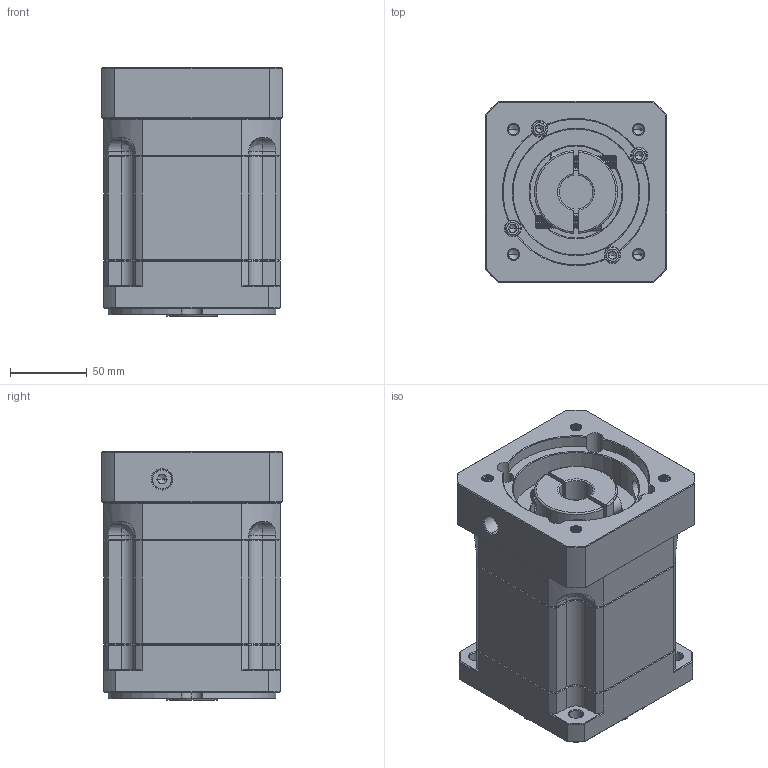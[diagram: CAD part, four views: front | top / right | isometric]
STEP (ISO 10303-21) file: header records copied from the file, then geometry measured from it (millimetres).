
FILE_DESCRIPTION (( 'STEP AP214' ), '1' );
FILE_NAME ('ZB115A-K25-L2-22-95-115-M8.step', '2023-03-02T09:04:54', ( '' ), ( 'Microsoft' ), 'SwSTEP 2.0', 'SolidWorks 2016', '' );
FILE_SCHEMA (( 'AUTOMOTIVE_DESIGN' ));
Length unit declared in the file: millimetre
Products named in the file (1): ZB115A-K25-L2-22-95-115-M8
Bounding box: 118 x 118 x 162 mm (x, y, z)
Volume: 1748242 mm3; surface area: 172589.4 mm2
Topology: 6 solids, 6 shells, 2073 faces, 5363 edges, 3381 vertices
Faces by surface type: plane 957, cylinder 415, cone 365, bspline 316, torus 20
Entity records: 108392 total; most frequent: CARTESIAN_POINT 37690, ORIENTED_EDGE 10662, DIRECTION 8803, EDGE_CURVE 5331, VERTEX_POINT 3381, LINE 3325, VECTOR 3325, AXIS2_PLACEMENT_3D 2739
